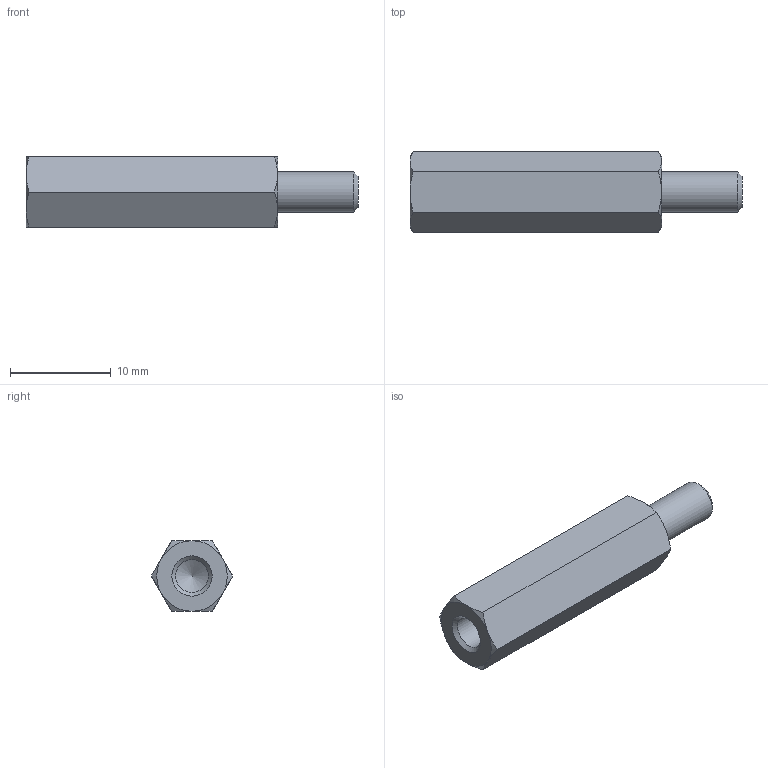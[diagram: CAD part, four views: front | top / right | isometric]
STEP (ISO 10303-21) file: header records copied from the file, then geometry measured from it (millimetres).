
FILE_DESCRIPTION( ( 'STEP AP203' ), '1' );
FILE_NAME( 'C:/Temp/Ganter_Step_05_03_2020/data/3_2/gn6220/gn6220_st/Spacer GN 6220-ST-M4-25-B.stp', '2020-03-13T05:42:39', ( 'License CC BY-ND 4.0' ), ( 'CADENAS' ), ' ', 'PARTsolutions', ' ' );
FILE_SCHEMA( ( 'CONFIG_CONTROL_DESIGN' ) );
Length unit declared in the file: millimetre
Products named in the file (1): _Spacer GN 6220-ST-M4-25-B
Bounding box: 33 x 8.08 x 7 mm (x, y, z)
Volume: 1042.2 mm3; surface area: 924.1 mm2
Topology: 1 solids, 1 shells, 26 faces, 55 edges, 32 vertices
Faces by surface type: cone 15, plane 9, cylinder 2
Full cylindrical faces by diameter (mm): 3.242 x1, 4 x1
Entity records: 746 total; most frequent: CARTESIAN_POINT 210, DIRECTION 96, ORIENTED_EDGE 96, EDGE_CURVE 48, AXIS2_PLACEMENT_3D 45, EDGE_LOOP 32, VERTEX_POINT 31, FACE_OUTER_BOUND 28
